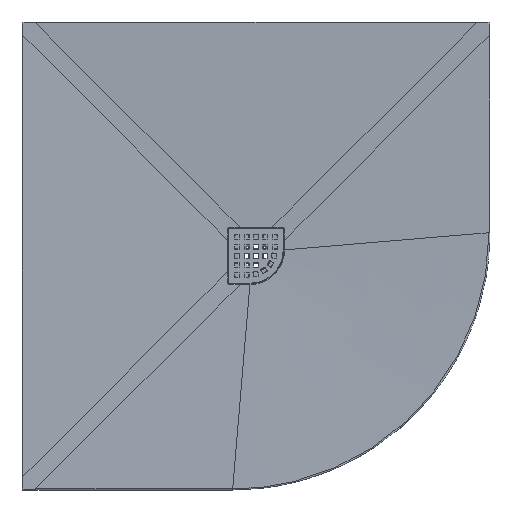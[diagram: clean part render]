
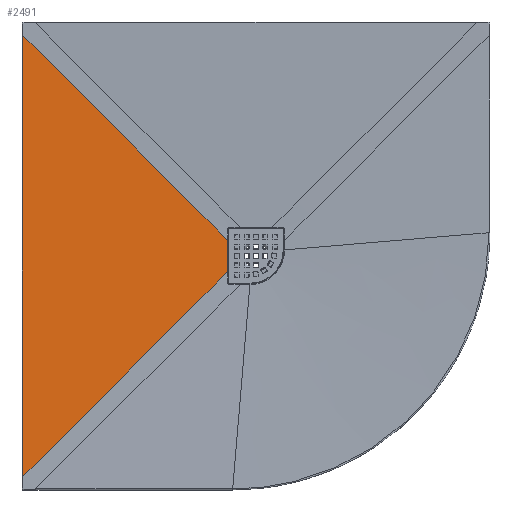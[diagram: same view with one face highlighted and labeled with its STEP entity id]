
A CAD part, top view. The second image highlights one B-rep face of the part: STEP entity #2491.
In plain terms, the highlighted free-form (B-spline) face has degree [1, 1] with [2, 2] control points.
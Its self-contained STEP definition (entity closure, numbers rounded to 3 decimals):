
#234 = CARTESIAN_POINT ( 'NONE',  ( -289.217, 261.961, -7.186 ) ) ;
#1067 = B_SPLINE_CURVE_WITH_KNOTS ( 'NONE', 3,
 ( #19574, #27326, #16565, #16896, #24787, #16727, #27680, #3054, #27858, #12376, #6801, #26204, #14548, #17235, #31566, #19930, #30873, #23295, #22769, #20617, #28184, #4092, #6448, #1399, #6633, #15074, #12015, #9661 ),
 .UNSPECIFIED., .F., .F.,
 ( 4, 1, 1, 1, 1, 1, 1, 1, 1, 1, 1, 1, 1, 1, 1, 1, 1, 1, 1, 1, 1, 1, 1, 1, 1, 4 ),
 ( 2.926, 45.572, 88.746, 128.322, 179.59, 222.764, 267.287, 297.643, 327.008, 354.873, 382.737, 410.601, 438.466, 467.597, 492.916, 516.37, 528.718, 541.308, 553.959, 568.43, 578.399, 587.697, 594.95, 602.456, 613.198, 621.068 ),
 .UNSPECIFIED. ) ;
#1165 = VERTEX_POINT ( 'NONE', #24642 ) ;
#1338 = CARTESIAN_POINT ( 'NONE',  ( -60.966, -57.629, -14.967 ) ) ;
#1399 = CARTESIAN_POINT ( 'NONE',  ( -79.369, -52.113, -14.34 ) ) ;
#1671 = EDGE_CURVE ( 'NONE', #29097, #1165, #35157, .T. ) ;
#1864 = CARTESIAN_POINT ( 'NONE',  ( -497.933, -470.676, -0.07 ) ) ;
#2413 = B_SPLINE_CURVE_WITH_KNOTS ( 'NONE', 3,
 ( #15933, #12510, #23439, #15210, #26693 ),
 .UNSPECIFIED., .F., .F.,
 ( 4, 1, 4 ),
 ( 0., 307.473, 941.35 ),
 .UNSPECIFIED. ) ;
#2484 = B_SPLINE_CURVE_WITH_KNOTS ( 'NONE', 3,
 ( #16613, #13541, #19118, #24302, #10644, #7965, #21595, #13901, #10991, #10818, #21764, #2744, #35279, #30417, #13725, #33100, #24839, #29693, #5093, #32742, #234, #30067, #2562, #32562, #27195, #24660, #18935, #8141, #16076 ),
 .UNSPECIFIED., .F., .F.,
 ( 4, 1, 1, 1, 1, 1, 1, 1, 1, 1, 1, 1, 1, 1, 1, 1, 1, 1, 1, 1, 1, 1, 1, 1, 1, 1, 4 ),
 ( 1.366, 6.101, 12.518, 22.007, 31.256, 43.117, 53.015, 65.821, 77.56, 96.235, 112.242, 128.25, 145.057, 169.068, 190.678, 213.489, 236.9, 262.111, 289.124, 325.14, 358.506, 389.305, 417.538, 474.003, 526.818, 547.604, 619.509 ),
 .UNSPECIFIED. ) ;
#2491 = ADVANCED_FACE ( 'NONE', ( #15011 ), #29140, .T. ) ;
#2508 = ORIENTED_EDGE ( 'NONE', *, *, #32503, .T. ) ;
#2562 = CARTESIAN_POINT ( 'NONE',  ( -334.596, 307.339, -5.639 ) ) ;
#2744 = CARTESIAN_POINT ( 'NONE',  ( -139.344, 112.087, -12.295 ) ) ;
#3054 = CARTESIAN_POINT ( 'NONE',  ( -314.393, -287.136, -6.328 ) ) ;
#4092 = CARTESIAN_POINT ( 'NONE',  ( -91.287, -64.03, -13.933 ) ) ;
#4216 = CARTESIAN_POINT ( 'NONE',  ( -497.933, 470.676, -0.07 ) ) ;
#5093 = CARTESIAN_POINT ( 'NONE',  ( -245.711, 218.454, -8.669 ) ) ;
#6448 = CARTESIAN_POINT ( 'NONE',  ( -85.038, -57.781, -14.146 ) ) ;
#6633 = CARTESIAN_POINT ( 'NONE',  ( -73.361, -46.104, -14.545 ) ) ;
#6658 = CARTESIAN_POINT ( 'NONE',  ( -60.966, -1.811, -14.967 ) ) ;
#6801 = CARTESIAN_POINT ( 'NONE',  ( -249.14, -221.883, -8.552 ) ) ;
#7029 = CARTESIAN_POINT ( 'NONE',  ( -497.932, 470.675, -0.071 ) ) ;
#7641 = ORIENTED_EDGE ( 'NONE', *, *, #30006, .T. ) ;
#7965 = CARTESIAN_POINT ( 'NONE',  ( -82.711, 55.454, -14.226 ) ) ;
#8141 = CARTESIAN_POINT ( 'NONE',  ( -480.989, 453.732, -0.648 ) ) ;
#9661 = CARTESIAN_POINT ( 'NONE',  ( -60.966, -33.709, -14.967 ) ) ;
#10007 = VERTEX_POINT ( 'NONE', #7029 ) ;
#10014 = CARTESIAN_POINT ( 'NONE',  ( -497.932, -470.675, -0.071 ) ) ;
#10644 = CARTESIAN_POINT ( 'NONE',  ( -75.5, 48.243, -14.472 ) ) ;
#10818 = CARTESIAN_POINT ( 'NONE',  ( -116.461, 89.205, -13.075 ) ) ;
#10991 = CARTESIAN_POINT ( 'NONE',  ( -106.277, 79.021, -13.422 ) ) ;
#12015 = CARTESIAN_POINT ( 'NONE',  ( -62.821, -35.564, -14.904 ) ) ;
#12376 = CARTESIAN_POINT ( 'NONE',  ( -269.191, -241.934, -7.868 ) ) ;
#12510 = CARTESIAN_POINT ( 'NONE',  ( -497.932, 368.184, -0.071 ) ) ;
#13153 = ORIENTED_EDGE ( 'NONE', *, *, #1671, .T. ) ;
#13541 = CARTESIAN_POINT ( 'NONE',  ( -62.081, 34.825, -14.929 ) ) ;
#13725 = CARTESIAN_POINT ( 'NONE',  ( -178.949, 151.692, -10.945 ) ) ;
#13901 = CARTESIAN_POINT ( 'NONE',  ( -98.162, 70.905, -13.699 ) ) ;
#14548 = CARTESIAN_POINT ( 'NONE',  ( -209.745, -182.488, -9.895 ) ) ;
#15011 = FACE_OUTER_BOUND ( 'NONE', #25343, .T. ) ;
#15074 = CARTESIAN_POINT ( 'NONE',  ( -67.206, -39.949, -14.754 ) ) ;
#15210 = CARTESIAN_POINT ( 'NONE',  ( -497.932, -259.383, -0.071 ) ) ;
#15282 = CARTESIAN_POINT ( 'NONE',  ( -60.966, 20.661, -14.967 ) ) ;
#15933 = CARTESIAN_POINT ( 'NONE',  ( -497.932, 470.675, -0.071 ) ) ;
#16076 = CARTESIAN_POINT ( 'NONE',  ( -497.932, 470.675, -0.071 ) ) ;
#16565 = CARTESIAN_POINT ( 'NONE',  ( -467.661, -440.404, -1.102 ) ) ;
#16613 = CARTESIAN_POINT ( 'NONE',  ( -60.966, 33.709, -14.967 ) ) ;
#16727 = CARTESIAN_POINT ( 'NONE',  ( -374.955, -347.698, -4.263 ) ) ;
#16896 = CARTESIAN_POINT ( 'NONE',  ( -438.113, -410.856, -2.11 ) ) ;
#17235 = CARTESIAN_POINT ( 'NONE',  ( -189.749, -162.493, -10.577 ) ) ;
#18935 = CARTESIAN_POINT ( 'NONE',  ( -459.148, 431.891, -1.393 ) ) ;
#19118 = CARTESIAN_POINT ( 'NONE',  ( -64.709, 37.452, -14.839 ) ) ;
#19574 = CARTESIAN_POINT ( 'NONE',  ( -497.932, -470.675, -0.071 ) ) ;
#19930 = CARTESIAN_POINT ( 'NONE',  ( -151.997, -124.74, -11.864 ) ) ;
#20617 = CARTESIAN_POINT ( 'NONE',  ( -107.977, -80.72, -13.364 ) ) ;
#21595 = CARTESIAN_POINT ( 'NONE',  ( -90.017, 62.76, -13.977 ) ) ;
#21764 = CARTESIAN_POINT ( 'NONE',  ( -127.4, 100.143, -12.702 ) ) ;
#22769 = CARTESIAN_POINT ( 'NONE',  ( -117.334, -90.077, -13.045 ) ) ;
#22964 = CARTESIAN_POINT ( 'NONE',  ( -60.966, -33.709, -14.967 ) ) ;
#23295 = CARTESIAN_POINT ( 'NONE',  ( -126.191, -98.935, -12.743 ) ) ;
#23439 = CARTESIAN_POINT ( 'NONE',  ( -497.932, 54.401, -0.071 ) ) ;
#24302 = CARTESIAN_POINT ( 'NONE',  ( -69.573, 42.316, -14.674 ) ) ;
#24642 = CARTESIAN_POINT ( 'NONE',  ( -60.966, 33.709, -14.967 ) ) ;
#24660 = CARTESIAN_POINT ( 'NONE',  ( -424.862, 397.605, -2.562 ) ) ;
#24787 = CARTESIAN_POINT ( 'NONE',  ( -406.534, -379.277, -3.186 ) ) ;
#24839 = CARTESIAN_POINT ( 'NONE',  ( -211.057, 183.8, -9.85 ) ) ;
#25343 = EDGE_LOOP ( 'NONE', ( #34108, #7641, #13153, #2508 ) ) ;
#26204 = CARTESIAN_POINT ( 'NONE',  ( -229.443, -202.186, -9.224 ) ) ;
#26231 = CARTESIAN_POINT ( 'NONE',  ( -60.966, 33.709, -14.967 ) ) ;
#26693 = CARTESIAN_POINT ( 'NONE',  ( -497.932, -470.675, -0.071 ) ) ;
#27195 = CARTESIAN_POINT ( 'NONE',  ( -394.213, 366.957, -3.606 ) ) ;
#27326 = CARTESIAN_POINT ( 'NONE',  ( -487.883, -460.626, -0.413 ) ) ;
#27418 = VERTEX_POINT ( 'NONE', #10014 ) ;
#27680 = CARTESIAN_POINT ( 'NONE',  ( -342.21, -314.953, -5.379 ) ) ;
#27858 = CARTESIAN_POINT ( 'NONE',  ( -289.829, -262.572, -7.165 ) ) ;
#28184 = CARTESIAN_POINT ( 'NONE',  ( -99.237, -71.98, -13.662 ) ) ;
#29097 = VERTEX_POINT ( 'NONE', #29272 ) ;
#29140 = B_SPLINE_SURFACE_WITH_KNOTS ( 'NONE', 1, 1, ( 
 ( #4216, #34401 ),
 ( #1864, #1338 ) ),
 .UNSPECIFIED., .F., .F., .F.,
 ( 2, 2 ),
 ( 2, 2 ),
 ( 0., 945.26 ),
 ( 0., 1. ),
 .UNSPECIFIED. ) ;
#29272 = CARTESIAN_POINT ( 'NONE',  ( -60.966, -33.709, -14.967 ) ) ;
#29693 = CARTESIAN_POINT ( 'NONE',  ( -227.889, 200.632, -9.277 ) ) ;
#30006 = EDGE_CURVE ( 'NONE', #27418, #29097, #1067, .T. ) ;
#30067 = CARTESIAN_POINT ( 'NONE',  ( -312.824, 285.567, -6.381 ) ) ;
#30417 = CARTESIAN_POINT ( 'NONE',  ( -164.239, 136.982, -11.446 ) ) ;
#30873 = CARTESIAN_POINT ( 'NONE',  ( -137.594, -110.337, -12.355 ) ) ;
#31566 = CARTESIAN_POINT ( 'NONE',  ( -170.353, -143.096, -11.238 ) ) ;
#31590 = CARTESIAN_POINT ( 'NONE',  ( -60.966, -24.284, -14.967 ) ) ;
#32503 = EDGE_CURVE ( 'NONE', #1165, #10007, #2484, .T. ) ;
#32562 = CARTESIAN_POINT ( 'NONE',  ( -361.811, 334.554, -4.711 ) ) ;
#32742 = CARTESIAN_POINT ( 'NONE',  ( -266.504, 239.247, -7.96 ) ) ;
#33100 = CARTESIAN_POINT ( 'NONE',  ( -195.074, 167.817, -10.395 ) ) ;
#33330 = EDGE_CURVE ( 'NONE', #10007, #27418, #2413, .T. ) ;
#34108 = ORIENTED_EDGE ( 'NONE', *, *, #33330, .T. ) ;
#34401 = CARTESIAN_POINT ( 'NONE',  ( -60.966, 57.629, -14.967 ) ) ;
#35157 = B_SPLINE_CURVE_WITH_KNOTS ( 'NONE', 3,
 ( #22964, #31590, #6658, #15282, #26231 ),
 .UNSPECIFIED., .F., .F.,
 ( 4, 1, 4 ),
 ( 0., 28.275, 67.418 ),
 .UNSPECIFIED. ) ;
#35279 = CARTESIAN_POINT ( 'NONE',  ( -150.848, 123.592, -11.903 ) ) ;
